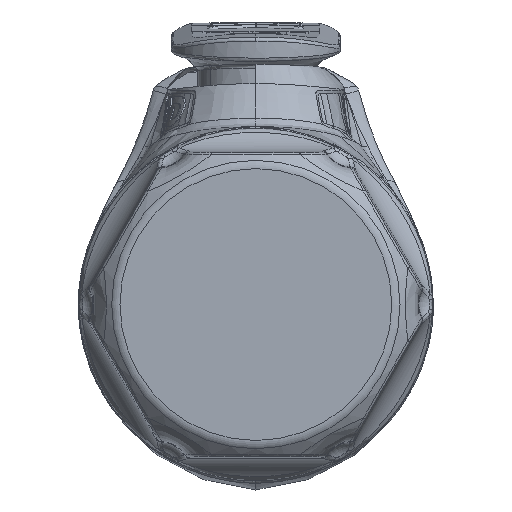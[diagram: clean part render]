
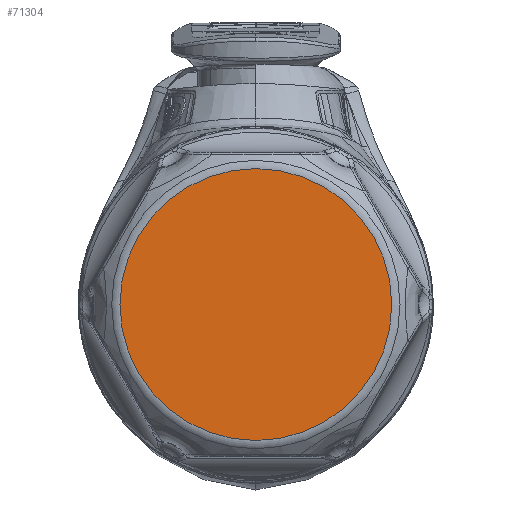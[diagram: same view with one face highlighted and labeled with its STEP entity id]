
A CAD part, front view. The second image highlights one B-rep face of the part: STEP entity #71304.
In plain terms, the highlighted planar face has unit normal (0, -1, 0).
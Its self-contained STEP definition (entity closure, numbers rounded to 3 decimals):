
#22397 = DIRECTION ( 'NONE',  ( 1., 0., 0. ) ) ;
#28985 = CARTESIAN_POINT ( 'NONE',  ( 11.016, -58.7, 0. ) ) ;
#36598 = FACE_OUTER_BOUND ( 'NONE', #87321, .T. ) ;
#60473 = VERTEX_POINT ( 'NONE', #28985 ) ;
#60863 = DIRECTION ( 'NONE',  ( 0., -1., 0. ) ) ;
#67094 = PLANE ( 'NONE',  #68876 ) ;
#68876 = AXIS2_PLACEMENT_3D ( 'NONE', #73098, #97526, #90048 ) ;
#69003 = AXIS2_PLACEMENT_3D ( 'NONE', #84776, #60863, #22397 ) ;
#71304 = ADVANCED_FACE ( 'NONE', ( #36598 ), #67094, .T. ) ;
#73098 = CARTESIAN_POINT ( 'NONE',  ( 0., -58.7, 0. ) ) ;
#83865 = EDGE_CURVE ( 'NONE', #60473, #60473, #96315, .T. ) ;
#84776 = CARTESIAN_POINT ( 'NONE',  ( 0., -58.7, 0. ) ) ;
#87321 = EDGE_LOOP ( 'NONE', ( #92298 ) ) ;
#90048 = DIRECTION ( 'NONE',  ( 0., 0., -1. ) ) ;
#92298 = ORIENTED_EDGE ( 'NONE', *, *, #83865, .T. ) ;
#96315 = CIRCLE ( 'NONE', #69003, 11.016 ) ;
#97526 = DIRECTION ( 'NONE',  ( 0., -1., 0. ) ) ;
